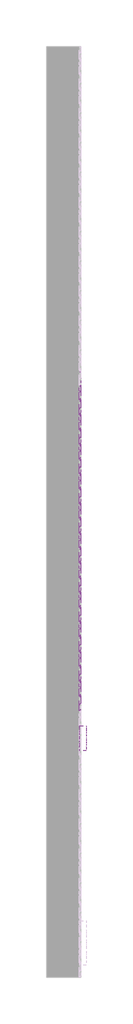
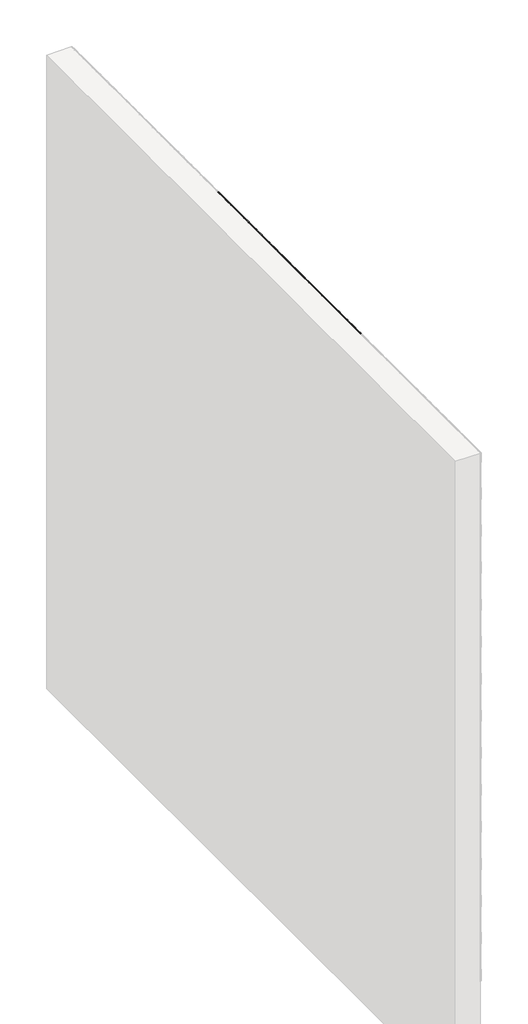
# One storey, part 112 of 121: 87 proxies.
"""IFC4 building model written with IfcOpenShell, lengths in millimetres."""

import ifcopenshell
import ifcopenshell.guid

model = None  # the IFC model being written
_history = None  # IfcOwnerHistory: only IFC2X3 demands one
_inside = {}  # id of a spatial element -> (the spatial element, [elements in it])
_under = {}  # id of a project, library or spatial element -> (it, [spatial elements below it])
_declared = {}  # id of a project -> (the project, [libraries it declares])
_typed = {}  # id of a type object -> (the type object, [elements of that type])
_made_of = {}  # id of a material, layer set ... -> (it, [elements and type objects made of it])


def new_model(schema):
    """Start an empty IFC model of exactly this schema.

    Asked for "IFC4X3", IfcOpenShell would pick the latest addendum, in which some entities
    have other attributes; the version numbers below select the first issue.
    IFC2X3 requires an IfcOwnerHistory on every rooted entity: one is made here for all.
    """
    global model, _history
    if schema == "IFC4X3":
        model = ifcopenshell.file(schema_version=(4, 3, 0, 0))
    else:
        model = ifcopenshell.file(schema=schema)
    _inside.clear()
    _under.clear()
    _declared.clear()
    _typed.clear()
    _made_of.clear()
    _history = None
    if model.schema == "IFC2X3":
        org = make("IfcOrganization", Name="unknown")
        user = make(
            "IfcPersonAndOrganization",
            ThePerson=make("IfcPerson", FamilyName="unknown"),
            TheOrganization=org,
        )
        app = make(
            "IfcApplication",
            ApplicationDeveloper=org,
            Version="unknown",
            ApplicationFullName="unknown",
            ApplicationIdentifier="unknown",
        )
        _history = make(
            "IfcOwnerHistory",
            OwningUser=user,
            OwningApplication=app,
            ChangeAction="ADDED",
            CreationDate=0,
        )
    return model


def make(cls, **values):
    """One entity of the class cls with the attributes given. An attribute that is None is left unset."""
    return model.create_entity(
        cls, **{name: value for name, value in values.items() if value is not None}
    )


def rooted(cls, **values):
    """An entity with a GlobalId (a new one), such as an element, a storey or a relation."""
    return make(cls, GlobalId=ifcopenshell.guid.new(), OwnerHistory=_history, **values)


def si_unit(unit_type, name, prefix=None):
    """IfcSIUnit, for example si_unit("LENGTHUNIT", "METRE", prefix="MILLI")."""
    return make("IfcSIUnit", UnitType=unit_type, Prefix=prefix, Name=name)


def assignment(units):
    """IfcUnitAssignment: the units of a project."""
    return None if units is None else make("IfcUnitAssignment", Units=units)


def point(xyz):
    """IfcCartesianPoint."""
    return None if xyz is None else make("IfcCartesianPoint", Coordinates=xyz)


def direction(xyz):
    """IfcDirection."""
    return None if xyz is None else make("IfcDirection", DirectionRatios=xyz)


def frame(location, z_axis=None, x_axis=None):
    """IfcAxis2Placement3D, a coordinate frame: its origin and axes. An axis left out is left unset."""
    return make(
        "IfcAxis2Placement3D",
        Location=point(location),
        Axis=direction(z_axis),
        RefDirection=direction(x_axis),
    )


def origin():
    """The frame at (0, 0, 0) with its axes left unset."""
    return frame((0.0, 0.0, 0.0))


def origin_with_axes():
    """The frame at (0, 0, 0) with the z axis (0, 0, 1) and the x axis (1, 0, 0) written out."""
    return frame((0.0, 0.0, 0.0), z_axis=(0.0, 0.0, 1.0), x_axis=(1.0, 0.0, 0.0))


def place(relative_to, where):
    """IfcLocalPlacement: puts the frame where relative to a parent placement (None: the world)."""
    return make(
        "IfcLocalPlacement", PlacementRelTo=relative_to, RelativePlacement=where
    )


def context(
    kind, dimensions, precision=None, world=None, true_north=None, identifier=None
):
    """IfcGeometricRepresentationContext, for example the 3D "Model" context."""
    return make(
        "IfcGeometricRepresentationContext",
        ContextIdentifier=identifier,
        ContextType=kind,
        CoordinateSpaceDimension=dimensions,
        Precision=precision,
        WorldCoordinateSystem=world,
        TrueNorth=true_north,
    )


def project(units=None, contexts=None):
    """IfcProject with its units and contexts."""
    return rooted(
        "IfcProject",
        Name="project",
        RepresentationContexts=contexts,
        UnitsInContext=assignment(units),
    )


def spatial(cls, under=None, at=None, **own):
    """A site, building, storey or space (cls), placed at a placement, below another one or the project."""
    s = rooted(cls, ObjectPlacement=at, **own)
    if under is not None:
        _under.setdefault(under.id(), (under, []))[1].append(s)
    return s


def polyline(points):
    """IfcPolyline through the points."""
    return make("IfcPolyline", Points=[point(p) for p in points])


def outline(outer, holes=None, kind="AREA"):
    """IfcArbitraryClosedProfileDef: a profile drawn as a closed curve; with holes, ...WithVoids."""
    if holes is None:
        return make("IfcArbitraryClosedProfileDef", ProfileType=kind, OuterCurve=outer)
    return make(
        "IfcArbitraryProfileDefWithVoids",
        ProfileType=kind,
        OuterCurve=outer,
        InnerCurves=holes,
    )


def extrude(swept, where, along, depth):
    """IfcExtrudedAreaSolid: the profile swept, set in the frame where, extruded along a direction by depth."""
    return make(
        "IfcExtrudedAreaSolid",
        SweptArea=swept,
        Position=where,
        ExtrudedDirection=direction(along),
        Depth=depth,
    )


def shape(context_of_items, identifier, shape_type, items):
    """IfcShapeRepresentation: the items that make up one representation, for example the "Body"."""
    return make(
        "IfcShapeRepresentation",
        ContextOfItems=context_of_items,
        RepresentationIdentifier=identifier,
        RepresentationType=shape_type,
        Items=items,
    )


def source(mapping_origin, context_of_items, identifier, shape_type, items):
    """IfcRepresentationMap: a shape defined once, which mapped items show again and again."""
    return make(
        "IfcRepresentationMap",
        MappingOrigin=mapping_origin,
        MappedRepresentation=shape(context_of_items, identifier, shape_type, items),
    )


def transform(
    local_origin,
    x_axis=None,
    y_axis=None,
    z_axis=None,
    scale=None,
    scale2=None,
    scale3=None,
    uniform=True,
):
    """IfcCartesianTransformationOperator3D, or its non-uniform kind. x_axis, y_axis, z_axis: its Axis1, 2, 3."""
    if uniform:
        return make(
            "IfcCartesianTransformationOperator3D",
            Axis1=direction(x_axis),
            Axis2=direction(y_axis),
            LocalOrigin=point(local_origin),
            Scale=scale,
            Axis3=direction(z_axis),
        )
    return make(
        "IfcCartesianTransformationOperator3DnonUniform",
        Axis1=direction(x_axis),
        Axis2=direction(y_axis),
        LocalOrigin=point(local_origin),
        Scale=scale,
        Axis3=direction(z_axis),
        Scale2=scale2,
        Scale3=scale3,
    )


def mapped(mapping_source, mapping_target):
    """IfcMappedItem: shows the shape of a source again, moved by a transform."""
    return make(
        "IfcMappedItem", MappingSource=mapping_source, MappingTarget=mapping_target
    )


def made_of(thing, what):
    """Note that an element or type object is made of a material, layer set ...; save() writes the relation."""
    if what is not None:
        _made_of.setdefault(what.id(), (what, []))[1].append(thing)
    return thing


def element(
    cls,
    number,
    at=None,
    inside=None,
    cuts=None,
    type_object=None,
    material=None,
    context=None,
    identifier="Body",
    shape_type=None,
    held_by="IfcProductDefinitionShape",
    body=None,
    shapes=None,
    **own,
):
    """One element of the class cls, such as IfcWall. Its Tag is "e" and its number.

    at: its placement. inside: the storey or other place that contains it. cuts: it is an
    opening in that element (IfcRelVoidsElement). A single representation is given by context,
    identifier, shape_type and body (its items); several are given by shapes. held_by: the class
    of the entity that holds the representations. save() writes the other relations.
    """
    e = rooted(cls, Tag="e%d" % number, ObjectPlacement=at, **own)
    if body is not None:
        shapes = [shape(context, identifier, shape_type, body)]
    if shapes is not None:
        e.Representation = make(held_by, Representations=shapes)
    if inside is not None:
        _inside.setdefault(inside.id(), (inside, []))[1].append(e)
    if cuts is not None:
        rooted(
            "IfcRelVoidsElement", RelatingBuildingElement=cuts, RelatedOpeningElement=e
        )
    if type_object is not None:
        _typed.setdefault(type_object.id(), (type_object, []))[1].append(e)
    return made_of(e, material)


def aggregate(whole, parts):
    """IfcRelAggregates: a whole, such as a stair, and the parts it consists of."""
    return rooted("IfcRelAggregates", RelatingObject=whole, RelatedObjects=parts)


def save(model, path):
    """Write the relations noted so far, then the file.

    IfcRelAggregates (storeys below a building ...), IfcRelContainedInSpatialStructure (elements
    in a storey), IfcRelDefinesByType, IfcRelAssociatesMaterial and IfcRelDeclares: one each for
    every whole, place, type object, material and project.
    """
    for whole, parts in _under.values():
        aggregate(whole, parts)
    for where, things in _inside.values():
        rooted(
            "IfcRelContainedInSpatialStructure",
            RelatedElements=things,
            RelatingStructure=where,
        )
    for kind, things in _typed.values():
        rooted("IfcRelDefinesByType", RelatedObjects=things, RelatingType=kind)
    for what, things in _made_of.values():
        rooted("IfcRelAssociatesMaterial", RelatedObjects=things, RelatingMaterial=what)
    for by, libraries in _declared.values():
        rooted("IfcRelDeclares", RelatingContext=by, RelatedDefinitions=libraries)
    model.write(path)


def generic_models_b2b2c5c1(model_context):
    return source(origin(), model_context, "Body", "SweptSolid", [
        extrude(outline(polyline([(22.7119765, 13.1167077), (22.7119765, -39.4221668), (-22.7076581, -13.1991285), (-22.7076581, 39.339746), (22.7119765, 13.1167077)])), origin_with_axes(), (0.0, 0.0, 1.0), 2.0),
        extrude(outline(polyline([(-20.7076581, 35.8756443), (20.7119765, 11.9620071), (20.7119765, -35.9580652), (-20.7076581, -12.044428), (-20.7076581, 35.8756443)])), frame((0.0, 0.0, 2.0), z_axis=(0.0, 0.0, 1.0), x_axis=(1.0, 0.0, 0.0)), (0.0, 0.0, 1.0), 2.5),
    ])


def generic_models_9bf73f6f(model_context):
    return source(origin(), model_context, "Body", "SweptSolid", [
        extrude(outline(polyline([(0.0, 26.3094011), (45.5692194, 0.0), (0.0, -26.3094011), (-45.5692194, 0.0), (0.0, 26.3094011)])), origin_with_axes(), (0.0, 0.0, 1.0), 2.0),
        extrude(outline(polyline([(0.0, 24.0), (41.5692194, 0.0), (0.0, -24.0), (-41.5692194, 0.0), (0.0, 24.0)])), frame((0.0, 0.0, 2.0), z_axis=(0.0, 0.0, 1.0), x_axis=(1.0, 0.0, 0.0)), (0.0, 0.0, 1.0), 2.5),
    ])


def generic_models_5d175859(model_context):
    return source(origin(), model_context, "Body", "SweptSolid", [
        extrude(outline(polyline([(22.7119765, -13.1167077), (-22.7076581, -39.339746), (-22.7076581, 13.1991285), (22.7119765, 39.4221668), (22.7119765, -13.1167077)])), origin_with_axes(), (0.0, 0.0, 1.0), 2.0),
        extrude(outline(polyline([(-20.7076581, -35.8756443), (-20.7076581, 12.044428), (20.7119765, 35.9580652), (20.7119765, -11.9620071), (-20.7076581, -35.8756443)])), frame((0.0, 0.0, 2.0), z_axis=(0.0, 0.0, 1.0), x_axis=(1.0, 0.0, 0.0)), (0.0, 0.0, 1.0), 2.5),
    ])


def generic_models_65d4feed(model_context):
    return source(origin(), model_context, "Body", "SweptSolid", [
        extrude(outline(polyline([(22.7119765, -23.160254), (22.7119765, -39.4221668), (-5.4544827, -23.160254), (22.7119765, -23.160254)])), origin_with_axes(), (0.0, 0.0, 1.0), 2.0),
        extrude(outline(polyline([(20.7119765, -23.160254), (20.7119765, -35.9580652), (-1.4544827, -23.160254), (20.7119765, -23.160254)])), frame((0.0, 0.0, 2.0), z_axis=(0.0, 0.0, 1.0), x_axis=(1.0, 0.0, 0.0)), (0.0, 0.0, 1.0), 2.5),
    ])


def generic_models_3c364290(model_context):
    return source(origin(), model_context, "Body", "SweptSolid", [
        extrude(outline(polyline([(22.7119765, 23.160254), (-5.4544827, 23.160254), (22.7119765, 39.4221668), (22.7119765, 23.160254)])), origin_with_axes(), (0.0, 0.0, 1.0), 2.0),
        extrude(outline(polyline([(20.7119765, 23.160254), (-1.4544827, 23.160254), (20.7119765, 35.9580652), (20.7119765, 23.160254)])), frame((0.0, 0.0, 2.0), z_axis=(0.0, 0.0, 1.0), x_axis=(1.0, 0.0, 0.0)), (0.0, 0.0, 1.0), 2.5),
    ])


def generic_models_b652511d(model_context):
    return source(origin(), model_context, "Body", "SweptSolid", [
        extrude(outline(polyline([(45.5692194, 0.0), (0.0, -26.3094011), (-45.5692194, 0.0), (-17.3205081, 16.3094011), (17.3205081, 16.3094011), (45.5692194, 0.0)])), origin_with_axes(), (0.0, 0.0, 1.0), 2.0),
        extrude(outline(polyline([(41.5692194, 0.0), (0.0, -24.0), (-41.5692194, 0.0), (-13.3205081, 16.3094011), (13.3205081, 16.3094011), (41.5692194, 0.0)])), frame((0.0, 0.0, 2.0), z_axis=(0.0, 0.0, 1.0), x_axis=(1.0, 0.0, 0.0)), (0.0, 0.0, 1.0), 2.5),
    ])


model = new_model("IFC4")

# Units and contexts
model_context = context("Model", 3, world=origin())
ifc_project = project(units=[si_unit("LENGTHUNIT", "METRE", prefix="MILLI")], contexts=[model_context])

# Site, building, storey
site = spatial("IfcSite", under=ifc_project)
building = spatial("IfcBuilding", under=site)
storey = spatial("IfcBuildingStorey", under=building, Name="PORTOBELLO - SHOWROOM", Elevation=0.0)

# Proxies
placement = place(None, origin())
generic_models_shape = generic_models_b2b2c5c1(model_context)
element("IfcBuildingElementProxy", 1, Name="PBSHOP - CUBICA WHITE 4,8X8,3 : CUBICA WHITE - POSIÇÃO 01", ObjectType="PBSHOP - CUBICA WHITE 4,8X8,3 : CUBICA WHITE - POSIÇÃO 01", at=placement, inside=storey, context=model_context, shape_type="MappedRepresentation", body=[
    mapped(generic_models_shape, transform((150369.5341846, 20649.9760535, 2565.3305948), x_axis=(0.0, 1.0, 0.0), y_axis=(0.0, 0.0, 1.0), z_axis=(1.0, 0.0, 0.0))),
])
element("IfcBuildingElementProxy", 2, Name="PBSHOP - CUBICA WHITE 4,8X8,3 : CUBICA WHITE - POSIÇÃO 01", ObjectType="PBSHOP - CUBICA WHITE 4,8X8,3 : CUBICA WHITE - POSIÇÃO 01", at=placement, inside=storey, context=model_context, shape_type="MappedRepresentation", body=[
    mapped(generic_models_shape, transform((150369.5341846, 20740.8153227, 2565.3305948), x_axis=(0.0, 1.0, 0.0), y_axis=(0.0, 0.0, 1.0), z_axis=(1.0, 0.0, 0.0))),
])
element("IfcBuildingElementProxy", 3, Name="PBSHOP - CUBICA WHITE 4,8X8,3 : CUBICA WHITE - POSIÇÃO 01", ObjectType="PBSHOP - CUBICA WHITE 4,8X8,3 : CUBICA WHITE - POSIÇÃO 01", at=placement, inside=storey, context=model_context, shape_type="MappedRepresentation", body=[
    mapped(generic_models_shape, transform((150369.5341846, 20831.654592, 2565.3305948), x_axis=(0.0, 1.0, 0.0), y_axis=(0.0, 0.0, 1.0), z_axis=(1.0, 0.0, 0.0))),
])
element("IfcBuildingElementProxy", 4, Name="PBSHOP - CUBICA WHITE 4,8X8,3 : CUBICA WHITE - POSIÇÃO 01", ObjectType="PBSHOP - CUBICA WHITE 4,8X8,3 : CUBICA WHITE - POSIÇÃO 01", at=placement, inside=storey, context=model_context, shape_type="MappedRepresentation", body=[
    mapped(generic_models_shape, transform((150369.5341846, 20922.4938612, 2565.3305948), x_axis=(0.0, 1.0, 0.0), y_axis=(0.0, 0.0, 1.0), z_axis=(1.0, 0.0, 0.0))),
])
element("IfcBuildingElementProxy", 5, Name="PBSHOP - CUBICA WHITE 4,8X8,3 : CUBICA WHITE - POSIÇÃO 01", ObjectType="PBSHOP - CUBICA WHITE 4,8X8,3 : CUBICA WHITE - POSIÇÃO 01", at=placement, inside=storey, context=model_context, shape_type="MappedRepresentation", body=[
    mapped(generic_models_shape, transform((150369.5341846, 20059.5208034, 2644.2652332), x_axis=(0.0, 1.0, 0.0), y_axis=(0.0, 0.0, 1.0), z_axis=(1.0, 0.0, 0.0))),
])
element("IfcBuildingElementProxy", 6, Name="PBSHOP - CUBICA WHITE 4,8X8,3 : CUBICA WHITE - POSIÇÃO 01", ObjectType="PBSHOP - CUBICA WHITE 4,8X8,3 : CUBICA WHITE - POSIÇÃO 01", at=placement, inside=storey, context=model_context, shape_type="MappedRepresentation", body=[
    mapped(generic_models_shape, transform((150369.5341846, 20150.3600726, 2644.2652332), x_axis=(0.0, 1.0, 0.0), y_axis=(0.0, 0.0, 1.0), z_axis=(1.0, 0.0, 0.0))),
])
element("IfcBuildingElementProxy", 7, Name="PBSHOP - CUBICA WHITE 4,8X8,3 : CUBICA WHITE - POSIÇÃO 01", ObjectType="PBSHOP - CUBICA WHITE 4,8X8,3 : CUBICA WHITE - POSIÇÃO 01", at=placement, inside=storey, context=model_context, shape_type="MappedRepresentation", body=[
    mapped(generic_models_shape, transform((150369.5341846, 20241.1993419, 2644.2652332), x_axis=(0.0, 1.0, 0.0), y_axis=(0.0, 0.0, 1.0), z_axis=(1.0, 0.0, 0.0))),
])
element("IfcBuildingElementProxy", 8, Name="PBSHOP - CUBICA WHITE 4,8X8,3 : CUBICA WHITE - POSIÇÃO 01", ObjectType="PBSHOP - CUBICA WHITE 4,8X8,3 : CUBICA WHITE - POSIÇÃO 01", at=placement, inside=storey, context=model_context, shape_type="MappedRepresentation", body=[
    mapped(generic_models_shape, transform((150369.5341846, 20332.0386111, 2644.2652332), x_axis=(0.0, 1.0, 0.0), y_axis=(0.0, 0.0, 1.0), z_axis=(1.0, 0.0, 0.0))),
])
element("IfcBuildingElementProxy", 9, Name="PBSHOP - CUBICA WHITE 4,8X8,3 : CUBICA WHITE - POSIÇÃO 01", ObjectType="PBSHOP - CUBICA WHITE 4,8X8,3 : CUBICA WHITE - POSIÇÃO 01", at=placement, inside=storey, context=model_context, shape_type="MappedRepresentation", body=[
    mapped(generic_models_shape, transform((150369.5341846, 20422.8778804, 2644.2652332), x_axis=(0.0, 1.0, 0.0), y_axis=(0.0, 0.0, 1.0), z_axis=(1.0, 0.0, 0.0))),
])
element("IfcBuildingElementProxy", 10, Name="PBSHOP - CUBICA WHITE 4,8X8,3 : CUBICA WHITE - POSIÇÃO 01", ObjectType="PBSHOP - CUBICA WHITE 4,8X8,3 : CUBICA WHITE - POSIÇÃO 01", at=placement, inside=storey, context=model_context, shape_type="MappedRepresentation", body=[
    mapped(generic_models_shape, transform((150369.5341846, 20513.7171496, 2644.2652332), x_axis=(0.0, 1.0, 0.0), y_axis=(0.0, 0.0, 1.0), z_axis=(1.0, 0.0, 0.0))),
])
element("IfcBuildingElementProxy", 11, Name="PBSHOP - CUBICA WHITE 4,8X8,3 : CUBICA WHITE - POSIÇÃO 01", ObjectType="PBSHOP - CUBICA WHITE 4,8X8,3 : CUBICA WHITE - POSIÇÃO 01", at=placement, inside=storey, context=model_context, shape_type="MappedRepresentation", body=[
    mapped(generic_models_shape, transform((150369.5341846, 20604.5564189, 2644.2652332), x_axis=(0.0, 1.0, 0.0), y_axis=(0.0, 0.0, 1.0), z_axis=(1.0, 0.0, 0.0))),
])
element("IfcBuildingElementProxy", 12, Name="PBSHOP - CUBICA WHITE 4,8X8,3 : CUBICA WHITE - POSIÇÃO 01", ObjectType="PBSHOP - CUBICA WHITE 4,8X8,3 : CUBICA WHITE - POSIÇÃO 01", at=placement, inside=storey, context=model_context, shape_type="MappedRepresentation", body=[
    mapped(generic_models_shape, transform((150369.5341846, 20695.3956881, 2644.2652332), x_axis=(0.0, 1.0, 0.0), y_axis=(0.0, 0.0, 1.0), z_axis=(1.0, 0.0, 0.0))),
])
element("IfcBuildingElementProxy", 13, Name="PBSHOP - CUBICA WHITE 4,8X8,3 : CUBICA WHITE - POSIÇÃO 01", ObjectType="PBSHOP - CUBICA WHITE 4,8X8,3 : CUBICA WHITE - POSIÇÃO 01", at=placement, inside=storey, context=model_context, shape_type="MappedRepresentation", body=[
    mapped(generic_models_shape, transform((150369.5341846, 20786.2349573, 2644.2652332), x_axis=(0.0, 1.0, 0.0), y_axis=(0.0, 0.0, 1.0), z_axis=(1.0, 0.0, 0.0))),
])
element("IfcBuildingElementProxy", 14, Name="PBSHOP - CUBICA WHITE 4,8X8,3 : CUBICA WHITE - POSIÇÃO 01", ObjectType="PBSHOP - CUBICA WHITE 4,8X8,3 : CUBICA WHITE - POSIÇÃO 01", at=placement, inside=storey, context=model_context, shape_type="MappedRepresentation", body=[
    mapped(generic_models_shape, transform((150369.5341846, 20877.0742266, 2644.2652332), x_axis=(0.0, 1.0, 0.0), y_axis=(0.0, 0.0, 1.0), z_axis=(1.0, 0.0, 0.0))),
])
element("IfcBuildingElementProxy", 15, Name="PBSHOP - CUBICA WHITE 4,8X8,3 : CUBICA WHITE - POSIÇÃO 01", ObjectType="PBSHOP - CUBICA WHITE 4,8X8,3 : CUBICA WHITE - POSIÇÃO 01", at=placement, inside=storey, context=model_context, shape_type="MappedRepresentation", body=[
    mapped(generic_models_shape, transform((150369.5341846, 20967.9134958, 2644.2652332), x_axis=(0.0, 1.0, 0.0), y_axis=(0.0, 0.0, 1.0), z_axis=(1.0, 0.0, 0.0))),
])
generic_models_2_shape = generic_models_9bf73f6f(model_context)
element("IfcBuildingElementProxy", 16, Name="PBSHOP - CUBICA WHITE 4,8X8,3 : CUBICA WHITE - POSIÇÃO 03", ObjectType="PBSHOP - CUBICA WHITE 4,8X8,3 : CUBICA WHITE - POSIÇÃO 03", at=placement, inside=storey, context=model_context, shape_type="MappedRepresentation", body=[
    mapped(generic_models_2_shape, transform((150369.5341846, 20082.2327799, 2525.8220652), x_axis=(0.0, 1.0, 0.0), y_axis=(0.0, 0.0, 1.0), z_axis=(1.0, 0.0, 0.0))),
])
element("IfcBuildingElementProxy", 17, Name="PBSHOP - CUBICA WHITE 4,8X8,3 : CUBICA WHITE - POSIÇÃO 03", ObjectType="PBSHOP - CUBICA WHITE 4,8X8,3 : CUBICA WHITE - POSIÇÃO 03", at=placement, inside=storey, context=model_context, shape_type="MappedRepresentation", body=[
    mapped(generic_models_2_shape, transform((150369.5341846, 20173.0720491, 2525.8220652), x_axis=(0.0, 1.0, 0.0), y_axis=(0.0, 0.0, 1.0), z_axis=(1.0, 0.0, 0.0))),
])
element("IfcBuildingElementProxy", 18, Name="PBSHOP - CUBICA WHITE 4,8X8,3 : CUBICA WHITE - POSIÇÃO 03", ObjectType="PBSHOP - CUBICA WHITE 4,8X8,3 : CUBICA WHITE - POSIÇÃO 03", at=placement, inside=storey, context=model_context, shape_type="MappedRepresentation", body=[
    mapped(generic_models_2_shape, transform((150369.5341846, 20263.9113184, 2525.8220652), x_axis=(0.0, 1.0, 0.0), y_axis=(0.0, 0.0, 1.0), z_axis=(1.0, 0.0, 0.0))),
])
element("IfcBuildingElementProxy", 19, Name="PBSHOP - CUBICA WHITE 4,8X8,3 : CUBICA WHITE - POSIÇÃO 03", ObjectType="PBSHOP - CUBICA WHITE 4,8X8,3 : CUBICA WHITE - POSIÇÃO 03", at=placement, inside=storey, context=model_context, shape_type="MappedRepresentation", body=[
    mapped(generic_models_2_shape, transform((150369.5341846, 20354.7505876, 2525.8220652), x_axis=(0.0, 1.0, 0.0), y_axis=(0.0, 0.0, 1.0), z_axis=(1.0, 0.0, 0.0))),
])
element("IfcBuildingElementProxy", 20, Name="PBSHOP - CUBICA WHITE 4,8X8,3 : CUBICA WHITE - POSIÇÃO 03", ObjectType="PBSHOP - CUBICA WHITE 4,8X8,3 : CUBICA WHITE - POSIÇÃO 03", at=placement, inside=storey, context=model_context, shape_type="MappedRepresentation", body=[
    mapped(generic_models_2_shape, transform((150369.5341846, 20445.5898568, 2525.8220652), x_axis=(0.0, 1.0, 0.0), y_axis=(0.0, 0.0, 1.0), z_axis=(1.0, 0.0, 0.0))),
])
element("IfcBuildingElementProxy", 21, Name="PBSHOP - CUBICA WHITE 4,8X8,3 : CUBICA WHITE - POSIÇÃO 03", ObjectType="PBSHOP - CUBICA WHITE 4,8X8,3 : CUBICA WHITE - POSIÇÃO 03", at=placement, inside=storey, context=model_context, shape_type="MappedRepresentation", body=[
    mapped(generic_models_2_shape, transform((150369.5341846, 20536.4291261, 2525.8220652), x_axis=(0.0, 1.0, 0.0), y_axis=(0.0, 0.0, 1.0), z_axis=(1.0, 0.0, 0.0))),
])
element("IfcBuildingElementProxy", 22, Name="PBSHOP - CUBICA WHITE 4,8X8,3 : CUBICA WHITE - POSIÇÃO 03", ObjectType="PBSHOP - CUBICA WHITE 4,8X8,3 : CUBICA WHITE - POSIÇÃO 03", at=placement, inside=storey, context=model_context, shape_type="MappedRepresentation", body=[
    mapped(generic_models_2_shape, transform((150369.5341846, 20627.2683953, 2525.8220652), x_axis=(0.0, 1.0, 0.0), y_axis=(0.0, 0.0, 1.0), z_axis=(1.0, 0.0, 0.0))),
])
element("IfcBuildingElementProxy", 23, Name="PBSHOP - CUBICA WHITE 4,8X8,3 : CUBICA WHITE - POSIÇÃO 03", ObjectType="PBSHOP - CUBICA WHITE 4,8X8,3 : CUBICA WHITE - POSIÇÃO 03", at=placement, inside=storey, context=model_context, shape_type="MappedRepresentation", body=[
    mapped(generic_models_2_shape, transform((150369.5341846, 20718.1076646, 2525.8220652), x_axis=(0.0, 1.0, 0.0), y_axis=(0.0, 0.0, 1.0), z_axis=(1.0, 0.0, 0.0))),
])
element("IfcBuildingElementProxy", 24, Name="PBSHOP - CUBICA WHITE 4,8X8,3 : CUBICA WHITE - POSIÇÃO 03", ObjectType="PBSHOP - CUBICA WHITE 4,8X8,3 : CUBICA WHITE - POSIÇÃO 03", at=placement, inside=storey, context=model_context, shape_type="MappedRepresentation", body=[
    mapped(generic_models_2_shape, transform((150369.5341846, 20808.9469338, 2525.8220652), x_axis=(0.0, 1.0, 0.0), y_axis=(0.0, 0.0, 1.0), z_axis=(1.0, 0.0, 0.0))),
])
element("IfcBuildingElementProxy", 25, Name="PBSHOP - CUBICA WHITE 4,8X8,3 : CUBICA WHITE - POSIÇÃO 03", ObjectType="PBSHOP - CUBICA WHITE 4,8X8,3 : CUBICA WHITE - POSIÇÃO 03", at=placement, inside=storey, context=model_context, shape_type="MappedRepresentation", body=[
    mapped(generic_models_2_shape, transform((150369.5341846, 20899.7862031, 2525.8220652), x_axis=(0.0, 1.0, 0.0), y_axis=(0.0, 0.0, 1.0), z_axis=(1.0, 0.0, 0.0))),
])
element("IfcBuildingElementProxy", 26, Name="PBSHOP - CUBICA WHITE 4,8X8,3 : CUBICA WHITE - POSIÇÃO 03", ObjectType="PBSHOP - CUBICA WHITE 4,8X8,3 : CUBICA WHITE - POSIÇÃO 03", at=placement, inside=storey, context=model_context, shape_type="MappedRepresentation", body=[
    mapped(generic_models_2_shape, transform((150369.5341846, 20990.6254723, 2525.8220652), x_axis=(0.0, 1.0, 0.0), y_axis=(0.0, 0.0, 1.0), z_axis=(1.0, 0.0, 0.0))),
])
element("IfcBuildingElementProxy", 27, Name="PBSHOP - CUBICA WHITE 4,8X8,3 : CUBICA WHITE - POSIÇÃO 03", ObjectType="PBSHOP - CUBICA WHITE 4,8X8,3 : CUBICA WHITE - POSIÇÃO 03", at=placement, inside=storey, context=model_context, shape_type="MappedRepresentation", body=[
    mapped(generic_models_2_shape, transform((150369.5341846, 20036.8131452, 2604.7567035), x_axis=(0.0, 1.0, 0.0), y_axis=(0.0, 0.0, 1.0), z_axis=(1.0, 0.0, 0.0))),
])
element("IfcBuildingElementProxy", 28, Name="PBSHOP - CUBICA WHITE 4,8X8,3 : CUBICA WHITE - POSIÇÃO 03", ObjectType="PBSHOP - CUBICA WHITE 4,8X8,3 : CUBICA WHITE - POSIÇÃO 03", at=placement, inside=storey, context=model_context, shape_type="MappedRepresentation", body=[
    mapped(generic_models_2_shape, transform((150369.5341846, 20127.6524145, 2604.7567035), x_axis=(0.0, 1.0, 0.0), y_axis=(0.0, 0.0, 1.0), z_axis=(1.0, 0.0, 0.0))),
])
element("IfcBuildingElementProxy", 29, Name="PBSHOP - CUBICA WHITE 4,8X8,3 : CUBICA WHITE - POSIÇÃO 03", ObjectType="PBSHOP - CUBICA WHITE 4,8X8,3 : CUBICA WHITE - POSIÇÃO 03", at=placement, inside=storey, context=model_context, shape_type="MappedRepresentation", body=[
    mapped(generic_models_2_shape, transform((150369.5341846, 20218.4916837, 2604.7567035), x_axis=(0.0, 1.0, 0.0), y_axis=(0.0, 0.0, 1.0), z_axis=(1.0, 0.0, 0.0))),
])
element("IfcBuildingElementProxy", 30, Name="PBSHOP - CUBICA WHITE 4,8X8,3 : CUBICA WHITE - POSIÇÃO 03", ObjectType="PBSHOP - CUBICA WHITE 4,8X8,3 : CUBICA WHITE - POSIÇÃO 03", at=placement, inside=storey, context=model_context, shape_type="MappedRepresentation", body=[
    mapped(generic_models_2_shape, transform((150369.5341846, 20309.330953, 2604.7567035), x_axis=(0.0, 1.0, 0.0), y_axis=(0.0, 0.0, 1.0), z_axis=(1.0, 0.0, 0.0))),
])
element("IfcBuildingElementProxy", 31, Name="PBSHOP - CUBICA WHITE 4,8X8,3 : CUBICA WHITE - POSIÇÃO 03", ObjectType="PBSHOP - CUBICA WHITE 4,8X8,3 : CUBICA WHITE - POSIÇÃO 03", at=placement, inside=storey, context=model_context, shape_type="MappedRepresentation", body=[
    mapped(generic_models_2_shape, transform((150369.5341846, 20400.1702222, 2604.7567035), x_axis=(0.0, 1.0, 0.0), y_axis=(0.0, 0.0, 1.0), z_axis=(1.0, 0.0, 0.0))),
])
element("IfcBuildingElementProxy", 32, Name="PBSHOP - CUBICA WHITE 4,8X8,3 : CUBICA WHITE - POSIÇÃO 03", ObjectType="PBSHOP - CUBICA WHITE 4,8X8,3 : CUBICA WHITE - POSIÇÃO 03", at=placement, inside=storey, context=model_context, shape_type="MappedRepresentation", body=[
    mapped(generic_models_2_shape, transform((150369.5341846, 20491.0094915, 2604.7567035), x_axis=(0.0, 1.0, 0.0), y_axis=(0.0, 0.0, 1.0), z_axis=(1.0, 0.0, 0.0))),
])
element("IfcBuildingElementProxy", 33, Name="PBSHOP - CUBICA WHITE 4,8X8,3 : CUBICA WHITE - POSIÇÃO 03", ObjectType="PBSHOP - CUBICA WHITE 4,8X8,3 : CUBICA WHITE - POSIÇÃO 03", at=placement, inside=storey, context=model_context, shape_type="MappedRepresentation", body=[
    mapped(generic_models_2_shape, transform((150369.5341846, 20581.8487607, 2604.7567035), x_axis=(0.0, 1.0, 0.0), y_axis=(0.0, 0.0, 1.0), z_axis=(1.0, 0.0, 0.0))),
])
element("IfcBuildingElementProxy", 34, Name="PBSHOP - CUBICA WHITE 4,8X8,3 : CUBICA WHITE - POSIÇÃO 03", ObjectType="PBSHOP - CUBICA WHITE 4,8X8,3 : CUBICA WHITE - POSIÇÃO 03", at=placement, inside=storey, context=model_context, shape_type="MappedRepresentation", body=[
    mapped(generic_models_2_shape, transform((150369.5341846, 20672.6880299, 2604.7567035), x_axis=(0.0, 1.0, 0.0), y_axis=(0.0, 0.0, 1.0), z_axis=(1.0, 0.0, 0.0))),
])
element("IfcBuildingElementProxy", 35, Name="PBSHOP - CUBICA WHITE 4,8X8,3 : CUBICA WHITE - POSIÇÃO 03", ObjectType="PBSHOP - CUBICA WHITE 4,8X8,3 : CUBICA WHITE - POSIÇÃO 03", at=placement, inside=storey, context=model_context, shape_type="MappedRepresentation", body=[
    mapped(generic_models_2_shape, transform((150369.5341846, 20763.5272992, 2604.7567035), x_axis=(0.0, 1.0, 0.0), y_axis=(0.0, 0.0, 1.0), z_axis=(1.0, 0.0, 0.0))),
])
element("IfcBuildingElementProxy", 36, Name="PBSHOP - CUBICA WHITE 4,8X8,3 : CUBICA WHITE - POSIÇÃO 03", ObjectType="PBSHOP - CUBICA WHITE 4,8X8,3 : CUBICA WHITE - POSIÇÃO 03", at=placement, inside=storey, context=model_context, shape_type="MappedRepresentation", body=[
    mapped(generic_models_2_shape, transform((150369.5341846, 20854.3665684, 2604.7567035), x_axis=(0.0, 1.0, 0.0), y_axis=(0.0, 0.0, 1.0), z_axis=(1.0, 0.0, 0.0))),
])
element("IfcBuildingElementProxy", 37, Name="PBSHOP - CUBICA WHITE 4,8X8,3 : CUBICA WHITE - POSIÇÃO 03", ObjectType="PBSHOP - CUBICA WHITE 4,8X8,3 : CUBICA WHITE - POSIÇÃO 03", at=placement, inside=storey, context=model_context, shape_type="MappedRepresentation", body=[
    mapped(generic_models_2_shape, transform((150369.5341846, 20945.2058377, 2604.7567035), x_axis=(0.0, 1.0, 0.0), y_axis=(0.0, 0.0, 1.0), z_axis=(1.0, 0.0, 0.0))),
])
generic_models_3_shape = generic_models_5d175859(model_context)
element("IfcBuildingElementProxy", 38, Name="PBSHOP - CUBICA WHITE 4,8X8,3 : CUBICA WHITE - POSIÇÃO 01", ObjectType="PBSHOP - CUBICA WHITE 4,8X8,3 : CUBICA WHITE - POSIÇÃO 01", at=placement, inside=storey, context=model_context, shape_type="MappedRepresentation", body=[
    mapped(generic_models_3_shape, transform((150369.5341846, 20604.5607372, 2565.3305948), x_axis=(0.0, -1.0, 0.0), y_axis=(0.0, 0.0, -1.0), z_axis=(1.0, 0.0, 0.0))),
])
element("IfcBuildingElementProxy", 39, Name="PBSHOP - CUBICA WHITE 4,8X8,3 : CUBICA WHITE - POSIÇÃO 01", ObjectType="PBSHOP - CUBICA WHITE 4,8X8,3 : CUBICA WHITE - POSIÇÃO 01", at=placement, inside=storey, context=model_context, shape_type="MappedRepresentation", body=[
    mapped(generic_models_3_shape, transform((150369.5341846, 20695.4000064, 2565.3305948), x_axis=(0.0, -1.0, 0.0), y_axis=(0.0, 0.0, -1.0), z_axis=(1.0, 0.0, 0.0))),
])
element("IfcBuildingElementProxy", 40, Name="PBSHOP - CUBICA WHITE 4,8X8,3 : CUBICA WHITE - POSIÇÃO 01", ObjectType="PBSHOP - CUBICA WHITE 4,8X8,3 : CUBICA WHITE - POSIÇÃO 01", at=placement, inside=storey, context=model_context, shape_type="MappedRepresentation", body=[
    mapped(generic_models_3_shape, transform((150369.5341846, 20786.2392757, 2565.3305948), x_axis=(0.0, -1.0, 0.0), y_axis=(0.0, 0.0, -1.0), z_axis=(1.0, 0.0, 0.0))),
])
element("IfcBuildingElementProxy", 41, Name="PBSHOP - CUBICA WHITE 4,8X8,3 : CUBICA WHITE - POSIÇÃO 01", ObjectType="PBSHOP - CUBICA WHITE 4,8X8,3 : CUBICA WHITE - POSIÇÃO 01", at=placement, inside=storey, context=model_context, shape_type="MappedRepresentation", body=[
    mapped(generic_models_3_shape, transform((150369.5341846, 20877.0785449, 2565.3305948), x_axis=(0.0, -1.0, 0.0), y_axis=(0.0, 0.0, -1.0), z_axis=(1.0, 0.0, 0.0))),
])
element("IfcBuildingElementProxy", 42, Name="PBSHOP - CUBICA WHITE 4,8X8,3 : CUBICA WHITE - POSIÇÃO 01", ObjectType="PBSHOP - CUBICA WHITE 4,8X8,3 : CUBICA WHITE - POSIÇÃO 01", at=placement, inside=storey, context=model_context, shape_type="MappedRepresentation", body=[
    mapped(generic_models_3_shape, transform((150369.5341846, 20967.9178142, 2565.3305948), x_axis=(0.0, -1.0, 0.0), y_axis=(0.0, 0.0, -1.0), z_axis=(1.0, 0.0, 0.0))),
])
element("IfcBuildingElementProxy", 43, Name="PBSHOP - CUBICA WHITE 4,8X8,3 : CUBICA WHITE - POSIÇÃO 01", ObjectType="PBSHOP - CUBICA WHITE 4,8X8,3 : CUBICA WHITE - POSIÇÃO 01", at=placement, inside=storey, context=model_context, shape_type="MappedRepresentation", body=[
    mapped(generic_models_3_shape, transform((150369.5341846, 20014.1054871, 2644.2652332), x_axis=(0.0, -1.0, 0.0), y_axis=(0.0, 0.0, -1.0), z_axis=(1.0, 0.0, 0.0))),
])
element("IfcBuildingElementProxy", 44, Name="PBSHOP - CUBICA WHITE 4,8X8,3 : CUBICA WHITE - POSIÇÃO 01", ObjectType="PBSHOP - CUBICA WHITE 4,8X8,3 : CUBICA WHITE - POSIÇÃO 01", at=placement, inside=storey, context=model_context, shape_type="MappedRepresentation", body=[
    mapped(generic_models_3_shape, transform((150369.5341846, 20104.9447563, 2644.2652332), x_axis=(0.0, -1.0, 0.0), y_axis=(0.0, 0.0, -1.0), z_axis=(1.0, 0.0, 0.0))),
])
element("IfcBuildingElementProxy", 45, Name="PBSHOP - CUBICA WHITE 4,8X8,3 : CUBICA WHITE - POSIÇÃO 01", ObjectType="PBSHOP - CUBICA WHITE 4,8X8,3 : CUBICA WHITE - POSIÇÃO 01", at=placement, inside=storey, context=model_context, shape_type="MappedRepresentation", body=[
    mapped(generic_models_3_shape, transform((150369.5341846, 20195.7840256, 2644.2652332), x_axis=(0.0, -1.0, 0.0), y_axis=(0.0, 0.0, -1.0), z_axis=(1.0, 0.0, 0.0))),
])
element("IfcBuildingElementProxy", 46, Name="PBSHOP - CUBICA WHITE 4,8X8,3 : CUBICA WHITE - POSIÇÃO 01", ObjectType="PBSHOP - CUBICA WHITE 4,8X8,3 : CUBICA WHITE - POSIÇÃO 01", at=placement, inside=storey, context=model_context, shape_type="MappedRepresentation", body=[
    mapped(generic_models_3_shape, transform((150369.5341846, 20286.6232948, 2644.2652332), x_axis=(0.0, -1.0, 0.0), y_axis=(0.0, 0.0, -1.0), z_axis=(1.0, 0.0, 0.0))),
])
element("IfcBuildingElementProxy", 47, Name="PBSHOP - CUBICA WHITE 4,8X8,3 : CUBICA WHITE - POSIÇÃO 01", ObjectType="PBSHOP - CUBICA WHITE 4,8X8,3 : CUBICA WHITE - POSIÇÃO 01", at=placement, inside=storey, context=model_context, shape_type="MappedRepresentation", body=[
    mapped(generic_models_3_shape, transform((150369.5341846, 20377.4625641, 2644.2652332), x_axis=(0.0, -1.0, 0.0), y_axis=(0.0, 0.0, -1.0), z_axis=(1.0, 0.0, 0.0))),
])
element("IfcBuildingElementProxy", 48, Name="PBSHOP - CUBICA WHITE 4,8X8,3 : CUBICA WHITE - POSIÇÃO 01", ObjectType="PBSHOP - CUBICA WHITE 4,8X8,3 : CUBICA WHITE - POSIÇÃO 01", at=placement, inside=storey, context=model_context, shape_type="MappedRepresentation", body=[
    mapped(generic_models_3_shape, transform((150369.5341846, 20468.3018333, 2644.2652332), x_axis=(0.0, -1.0, 0.0), y_axis=(0.0, 0.0, -1.0), z_axis=(1.0, 0.0, 0.0))),
])
element("IfcBuildingElementProxy", 49, Name="PBSHOP - CUBICA WHITE 4,8X8,3 : CUBICA WHITE - POSIÇÃO 01", ObjectType="PBSHOP - CUBICA WHITE 4,8X8,3 : CUBICA WHITE - POSIÇÃO 01", at=placement, inside=storey, context=model_context, shape_type="MappedRepresentation", body=[
    mapped(generic_models_3_shape, transform((150369.5341846, 20559.1411026, 2644.2652332), x_axis=(0.0, -1.0, 0.0), y_axis=(0.0, 0.0, -1.0), z_axis=(1.0, 0.0, 0.0))),
])
element("IfcBuildingElementProxy", 50, Name="PBSHOP - CUBICA WHITE 4,8X8,3 : CUBICA WHITE - POSIÇÃO 01", ObjectType="PBSHOP - CUBICA WHITE 4,8X8,3 : CUBICA WHITE - POSIÇÃO 01", at=placement, inside=storey, context=model_context, shape_type="MappedRepresentation", body=[
    mapped(generic_models_3_shape, transform((150369.5341846, 20649.9803718, 2644.2652332), x_axis=(0.0, -1.0, 0.0), y_axis=(0.0, 0.0, -1.0), z_axis=(1.0, 0.0, 0.0))),
])
element("IfcBuildingElementProxy", 51, Name="PBSHOP - CUBICA WHITE 4,8X8,3 : CUBICA WHITE - POSIÇÃO 01", ObjectType="PBSHOP - CUBICA WHITE 4,8X8,3 : CUBICA WHITE - POSIÇÃO 01", at=placement, inside=storey, context=model_context, shape_type="MappedRepresentation", body=[
    mapped(generic_models_3_shape, transform((150369.5341846, 20740.819641, 2644.2652332), x_axis=(0.0, -1.0, 0.0), y_axis=(0.0, 0.0, -1.0), z_axis=(1.0, 0.0, 0.0))),
])
element("IfcBuildingElementProxy", 52, Name="PBSHOP - CUBICA WHITE 4,8X8,3 : CUBICA WHITE - POSIÇÃO 01", ObjectType="PBSHOP - CUBICA WHITE 4,8X8,3 : CUBICA WHITE - POSIÇÃO 01", at=placement, inside=storey, context=model_context, shape_type="MappedRepresentation", body=[
    mapped(generic_models_3_shape, transform((150369.5341846, 20831.6589103, 2644.2652332), x_axis=(0.0, -1.0, 0.0), y_axis=(0.0, 0.0, -1.0), z_axis=(1.0, 0.0, 0.0))),
])
element("IfcBuildingElementProxy", 53, Name="PBSHOP - CUBICA WHITE 4,8X8,3 : CUBICA WHITE - POSIÇÃO 01", ObjectType="PBSHOP - CUBICA WHITE 4,8X8,3 : CUBICA WHITE - POSIÇÃO 01", at=placement, inside=storey, context=model_context, shape_type="MappedRepresentation", body=[
    mapped(generic_models_3_shape, transform((150369.5341846, 20922.4981795, 2644.2652332), x_axis=(0.0, -1.0, 0.0), y_axis=(0.0, 0.0, -1.0), z_axis=(1.0, 0.0, 0.0))),
])
generic_models_4_shape = generic_models_65d4feed(model_context)
element("IfcBuildingElementProxy", 54, Name="PBSHOP - CUBICA WHITE 4,8X8,3 : CUBICA WHITE - POSIÇÃO 01", ObjectType="PBSHOP - CUBICA WHITE 4,8X8,3 : CUBICA WHITE - POSIÇÃO 01", at=placement, inside=storey, context=model_context, shape_type="MappedRepresentation", body=[
    mapped(generic_models_4_shape, transform((150369.5341846, 20014.1011688, 2723.1998715), x_axis=(0.0, 1.0, 0.0), y_axis=(0.0, 0.0, 1.0), z_axis=(1.0, 0.0, 0.0))),
])
element("IfcBuildingElementProxy", 55, Name="PBSHOP - CUBICA WHITE 4,8X8,3 : CUBICA WHITE - POSIÇÃO 01", ObjectType="PBSHOP - CUBICA WHITE 4,8X8,3 : CUBICA WHITE - POSIÇÃO 01", at=placement, inside=storey, context=model_context, shape_type="MappedRepresentation", body=[
    mapped(generic_models_4_shape, transform((150369.5341846, 20104.940438, 2723.1998715), x_axis=(0.0, 1.0, 0.0), y_axis=(0.0, 0.0, 1.0), z_axis=(1.0, 0.0, 0.0))),
])
element("IfcBuildingElementProxy", 56, Name="PBSHOP - CUBICA WHITE 4,8X8,3 : CUBICA WHITE - POSIÇÃO 01", ObjectType="PBSHOP - CUBICA WHITE 4,8X8,3 : CUBICA WHITE - POSIÇÃO 01", at=placement, inside=storey, context=model_context, shape_type="MappedRepresentation", body=[
    mapped(generic_models_4_shape, transform((150369.5341846, 20195.7797073, 2723.1998715), x_axis=(0.0, 1.0, 0.0), y_axis=(0.0, 0.0, 1.0), z_axis=(1.0, 0.0, 0.0))),
])
element("IfcBuildingElementProxy", 57, Name="PBSHOP - CUBICA WHITE 4,8X8,3 : CUBICA WHITE - POSIÇÃO 01", ObjectType="PBSHOP - CUBICA WHITE 4,8X8,3 : CUBICA WHITE - POSIÇÃO 01", at=placement, inside=storey, context=model_context, shape_type="MappedRepresentation", body=[
    mapped(generic_models_4_shape, transform((150369.5341846, 20286.6189765, 2723.1998715), x_axis=(0.0, 1.0, 0.0), y_axis=(0.0, 0.0, 1.0), z_axis=(1.0, 0.0, 0.0))),
])
element("IfcBuildingElementProxy", 58, Name="PBSHOP - CUBICA WHITE 4,8X8,3 : CUBICA WHITE - POSIÇÃO 01", ObjectType="PBSHOP - CUBICA WHITE 4,8X8,3 : CUBICA WHITE - POSIÇÃO 01", at=placement, inside=storey, context=model_context, shape_type="MappedRepresentation", body=[
    mapped(generic_models_4_shape, transform((150369.5341846, 20377.4582457, 2723.1998715), x_axis=(0.0, 1.0, 0.0), y_axis=(0.0, 0.0, 1.0), z_axis=(1.0, 0.0, 0.0))),
])
element("IfcBuildingElementProxy", 59, Name="PBSHOP - CUBICA WHITE 4,8X8,3 : CUBICA WHITE - POSIÇÃO 01", ObjectType="PBSHOP - CUBICA WHITE 4,8X8,3 : CUBICA WHITE - POSIÇÃO 01", at=placement, inside=storey, context=model_context, shape_type="MappedRepresentation", body=[
    mapped(generic_models_4_shape, transform((150369.5341846, 20468.297515, 2723.1998715), x_axis=(0.0, 1.0, 0.0), y_axis=(0.0, 0.0, 1.0), z_axis=(1.0, 0.0, 0.0))),
])
element("IfcBuildingElementProxy", 60, Name="PBSHOP - CUBICA WHITE 4,8X8,3 : CUBICA WHITE - POSIÇÃO 01", ObjectType="PBSHOP - CUBICA WHITE 4,8X8,3 : CUBICA WHITE - POSIÇÃO 01", at=placement, inside=storey, context=model_context, shape_type="MappedRepresentation", body=[
    mapped(generic_models_4_shape, transform((150369.5341846, 20559.1367842, 2723.1998715), x_axis=(0.0, 1.0, 0.0), y_axis=(0.0, 0.0, 1.0), z_axis=(1.0, 0.0, 0.0))),
])
element("IfcBuildingElementProxy", 61, Name="PBSHOP - CUBICA WHITE 4,8X8,3 : CUBICA WHITE - POSIÇÃO 01", ObjectType="PBSHOP - CUBICA WHITE 4,8X8,3 : CUBICA WHITE - POSIÇÃO 01", at=placement, inside=storey, context=model_context, shape_type="MappedRepresentation", body=[
    mapped(generic_models_4_shape, transform((150369.5341846, 20649.9760535, 2723.1998715), x_axis=(0.0, 1.0, 0.0), y_axis=(0.0, 0.0, 1.0), z_axis=(1.0, 0.0, 0.0))),
])
element("IfcBuildingElementProxy", 62, Name="PBSHOP - CUBICA WHITE 4,8X8,3 : CUBICA WHITE - POSIÇÃO 01", ObjectType="PBSHOP - CUBICA WHITE 4,8X8,3 : CUBICA WHITE - POSIÇÃO 01", at=placement, inside=storey, context=model_context, shape_type="MappedRepresentation", body=[
    mapped(generic_models_4_shape, transform((150369.5341846, 20740.8153227, 2723.1998715), x_axis=(0.0, 1.0, 0.0), y_axis=(0.0, 0.0, 1.0), z_axis=(1.0, 0.0, 0.0))),
])
element("IfcBuildingElementProxy", 63, Name="PBSHOP - CUBICA WHITE 4,8X8,3 : CUBICA WHITE - POSIÇÃO 01", ObjectType="PBSHOP - CUBICA WHITE 4,8X8,3 : CUBICA WHITE - POSIÇÃO 01", at=placement, inside=storey, context=model_context, shape_type="MappedRepresentation", body=[
    mapped(generic_models_4_shape, transform((150369.5341846, 20831.654592, 2723.1998715), x_axis=(0.0, 1.0, 0.0), y_axis=(0.0, 0.0, 1.0), z_axis=(1.0, 0.0, 0.0))),
])
element("IfcBuildingElementProxy", 64, Name="PBSHOP - CUBICA WHITE 4,8X8,3 : CUBICA WHITE - POSIÇÃO 01", ObjectType="PBSHOP - CUBICA WHITE 4,8X8,3 : CUBICA WHITE - POSIÇÃO 01", at=placement, inside=storey, context=model_context, shape_type="MappedRepresentation", body=[
    mapped(generic_models_4_shape, transform((150369.5341846, 20922.4938612, 2723.1998715), x_axis=(0.0, 1.0, 0.0), y_axis=(0.0, 0.0, 1.0), z_axis=(1.0, 0.0, 0.0))),
])
generic_models_5_shape = generic_models_3c364290(model_context)
element("IfcBuildingElementProxy", 65, Name="PBSHOP - CUBICA WHITE 4,8X8,3 : CUBICA WHITE - POSIÇÃO 01", ObjectType="PBSHOP - CUBICA WHITE 4,8X8,3 : CUBICA WHITE - POSIÇÃO 01", at=placement, inside=storey, context=model_context, shape_type="MappedRepresentation", body=[
    mapped(generic_models_5_shape, transform((150369.5341846, 20059.5251217, 2723.1998715), x_axis=(0.0, -1.0, 0.0), y_axis=(0.0, 0.0, -1.0), z_axis=(1.0, 0.0, 0.0))),
])
element("IfcBuildingElementProxy", 66, Name="PBSHOP - CUBICA WHITE 4,8X8,3 : CUBICA WHITE - POSIÇÃO 01", ObjectType="PBSHOP - CUBICA WHITE 4,8X8,3 : CUBICA WHITE - POSIÇÃO 01", at=placement, inside=storey, context=model_context, shape_type="MappedRepresentation", body=[
    mapped(generic_models_5_shape, transform((150369.5341846, 20150.364391, 2723.1998715), x_axis=(0.0, -1.0, 0.0), y_axis=(0.0, 0.0, -1.0), z_axis=(1.0, 0.0, 0.0))),
])
element("IfcBuildingElementProxy", 67, Name="PBSHOP - CUBICA WHITE 4,8X8,3 : CUBICA WHITE - POSIÇÃO 01", ObjectType="PBSHOP - CUBICA WHITE 4,8X8,3 : CUBICA WHITE - POSIÇÃO 01", at=placement, inside=storey, context=model_context, shape_type="MappedRepresentation", body=[
    mapped(generic_models_5_shape, transform((150369.5341846, 20241.2036602, 2723.1998715), x_axis=(0.0, -1.0, 0.0), y_axis=(0.0, 0.0, -1.0), z_axis=(1.0, 0.0, 0.0))),
])
element("IfcBuildingElementProxy", 68, Name="PBSHOP - CUBICA WHITE 4,8X8,3 : CUBICA WHITE - POSIÇÃO 01", ObjectType="PBSHOP - CUBICA WHITE 4,8X8,3 : CUBICA WHITE - POSIÇÃO 01", at=placement, inside=storey, context=model_context, shape_type="MappedRepresentation", body=[
    mapped(generic_models_5_shape, transform((150369.5341846, 20332.0429295, 2723.1998715), x_axis=(0.0, -1.0, 0.0), y_axis=(0.0, 0.0, -1.0), z_axis=(1.0, 0.0, 0.0))),
])
element("IfcBuildingElementProxy", 69, Name="PBSHOP - CUBICA WHITE 4,8X8,3 : CUBICA WHITE - POSIÇÃO 01", ObjectType="PBSHOP - CUBICA WHITE 4,8X8,3 : CUBICA WHITE - POSIÇÃO 01", at=placement, inside=storey, context=model_context, shape_type="MappedRepresentation", body=[
    mapped(generic_models_5_shape, transform((150369.5341846, 20422.8821987, 2723.1998715), x_axis=(0.0, -1.0, 0.0), y_axis=(0.0, 0.0, -1.0), z_axis=(1.0, 0.0, 0.0))),
])
element("IfcBuildingElementProxy", 70, Name="PBSHOP - CUBICA WHITE 4,8X8,3 : CUBICA WHITE - POSIÇÃO 01", ObjectType="PBSHOP - CUBICA WHITE 4,8X8,3 : CUBICA WHITE - POSIÇÃO 01", at=placement, inside=storey, context=model_context, shape_type="MappedRepresentation", body=[
    mapped(generic_models_5_shape, transform((150369.5341846, 20513.7214679, 2723.1998715), x_axis=(0.0, -1.0, 0.0), y_axis=(0.0, 0.0, -1.0), z_axis=(1.0, 0.0, 0.0))),
])
element("IfcBuildingElementProxy", 71, Name="PBSHOP - CUBICA WHITE 4,8X8,3 : CUBICA WHITE - POSIÇÃO 01", ObjectType="PBSHOP - CUBICA WHITE 4,8X8,3 : CUBICA WHITE - POSIÇÃO 01", at=placement, inside=storey, context=model_context, shape_type="MappedRepresentation", body=[
    mapped(generic_models_5_shape, transform((150369.5341846, 20604.5607372, 2723.1998715), x_axis=(0.0, -1.0, 0.0), y_axis=(0.0, 0.0, -1.0), z_axis=(1.0, 0.0, 0.0))),
])
element("IfcBuildingElementProxy", 72, Name="PBSHOP - CUBICA WHITE 4,8X8,3 : CUBICA WHITE - POSIÇÃO 01", ObjectType="PBSHOP - CUBICA WHITE 4,8X8,3 : CUBICA WHITE - POSIÇÃO 01", at=placement, inside=storey, context=model_context, shape_type="MappedRepresentation", body=[
    mapped(generic_models_5_shape, transform((150369.5341846, 20695.4000064, 2723.1998715), x_axis=(0.0, -1.0, 0.0), y_axis=(0.0, 0.0, -1.0), z_axis=(1.0, 0.0, 0.0))),
])
element("IfcBuildingElementProxy", 73, Name="PBSHOP - CUBICA WHITE 4,8X8,3 : CUBICA WHITE - POSIÇÃO 01", ObjectType="PBSHOP - CUBICA WHITE 4,8X8,3 : CUBICA WHITE - POSIÇÃO 01", at=placement, inside=storey, context=model_context, shape_type="MappedRepresentation", body=[
    mapped(generic_models_5_shape, transform((150369.5341846, 20786.2392757, 2723.1998715), x_axis=(0.0, -1.0, 0.0), y_axis=(0.0, 0.0, -1.0), z_axis=(1.0, 0.0, 0.0))),
])
element("IfcBuildingElementProxy", 74, Name="PBSHOP - CUBICA WHITE 4,8X8,3 : CUBICA WHITE - POSIÇÃO 01", ObjectType="PBSHOP - CUBICA WHITE 4,8X8,3 : CUBICA WHITE - POSIÇÃO 01", at=placement, inside=storey, context=model_context, shape_type="MappedRepresentation", body=[
    mapped(generic_models_5_shape, transform((150369.5341846, 20877.0785449, 2723.1998715), x_axis=(0.0, -1.0, 0.0), y_axis=(0.0, 0.0, -1.0), z_axis=(1.0, 0.0, 0.0))),
])
element("IfcBuildingElementProxy", 75, Name="PBSHOP - CUBICA WHITE 4,8X8,3 : CUBICA WHITE - POSIÇÃO 01", ObjectType="PBSHOP - CUBICA WHITE 4,8X8,3 : CUBICA WHITE - POSIÇÃO 01", at=placement, inside=storey, context=model_context, shape_type="MappedRepresentation", body=[
    mapped(generic_models_5_shape, transform((150369.5341846, 20967.9178142, 2723.1998715), x_axis=(0.0, -1.0, 0.0), y_axis=(0.0, 0.0, -1.0), z_axis=(1.0, 0.0, 0.0))),
])
generic_models_6_shape = generic_models_b652511d(model_context)
element("IfcBuildingElementProxy", 76, Name="PBSHOP - CUBICA WHITE 4,8X8,3 : CUBICA WHITE - POSIÇÃO 03", ObjectType="PBSHOP - CUBICA WHITE 4,8X8,3 : CUBICA WHITE - POSIÇÃO 03", at=placement, inside=storey, context=model_context, shape_type="MappedRepresentation", body=[
    mapped(generic_models_6_shape, transform((150369.5341846, 20082.2327799, 2683.6913419), x_axis=(0.0, 1.0, 0.0), y_axis=(0.0, 0.0, 1.0), z_axis=(1.0, 0.0, 0.0))),
])
element("IfcBuildingElementProxy", 77, Name="PBSHOP - CUBICA WHITE 4,8X8,3 : CUBICA WHITE - POSIÇÃO 03", ObjectType="PBSHOP - CUBICA WHITE 4,8X8,3 : CUBICA WHITE - POSIÇÃO 03", at=placement, inside=storey, context=model_context, shape_type="MappedRepresentation", body=[
    mapped(generic_models_6_shape, transform((150369.5341846, 20173.0720491, 2683.6913419), x_axis=(0.0, 1.0, 0.0), y_axis=(0.0, 0.0, 1.0), z_axis=(1.0, 0.0, 0.0))),
])
element("IfcBuildingElementProxy", 78, Name="PBSHOP - CUBICA WHITE 4,8X8,3 : CUBICA WHITE - POSIÇÃO 03", ObjectType="PBSHOP - CUBICA WHITE 4,8X8,3 : CUBICA WHITE - POSIÇÃO 03", at=placement, inside=storey, context=model_context, shape_type="MappedRepresentation", body=[
    mapped(generic_models_6_shape, transform((150369.5341846, 20263.9113184, 2683.6913419), x_axis=(0.0, 1.0, 0.0), y_axis=(0.0, 0.0, 1.0), z_axis=(1.0, 0.0, 0.0))),
])
element("IfcBuildingElementProxy", 79, Name="PBSHOP - CUBICA WHITE 4,8X8,3 : CUBICA WHITE - POSIÇÃO 03", ObjectType="PBSHOP - CUBICA WHITE 4,8X8,3 : CUBICA WHITE - POSIÇÃO 03", at=placement, inside=storey, context=model_context, shape_type="MappedRepresentation", body=[
    mapped(generic_models_6_shape, transform((150369.5341846, 20354.7505876, 2683.6913419), x_axis=(0.0, 1.0, 0.0), y_axis=(0.0, 0.0, 1.0), z_axis=(1.0, 0.0, 0.0))),
])
element("IfcBuildingElementProxy", 80, Name="PBSHOP - CUBICA WHITE 4,8X8,3 : CUBICA WHITE - POSIÇÃO 03", ObjectType="PBSHOP - CUBICA WHITE 4,8X8,3 : CUBICA WHITE - POSIÇÃO 03", at=placement, inside=storey, context=model_context, shape_type="MappedRepresentation", body=[
    mapped(generic_models_6_shape, transform((150369.5341846, 20445.5898568, 2683.6913419), x_axis=(0.0, 1.0, 0.0), y_axis=(0.0, 0.0, 1.0), z_axis=(1.0, 0.0, 0.0))),
])
element("IfcBuildingElementProxy", 81, Name="PBSHOP - CUBICA WHITE 4,8X8,3 : CUBICA WHITE - POSIÇÃO 03", ObjectType="PBSHOP - CUBICA WHITE 4,8X8,3 : CUBICA WHITE - POSIÇÃO 03", at=placement, inside=storey, context=model_context, shape_type="MappedRepresentation", body=[
    mapped(generic_models_6_shape, transform((150369.5341846, 20536.4291261, 2683.6913419), x_axis=(0.0, 1.0, 0.0), y_axis=(0.0, 0.0, 1.0), z_axis=(1.0, 0.0, 0.0))),
])
element("IfcBuildingElementProxy", 82, Name="PBSHOP - CUBICA WHITE 4,8X8,3 : CUBICA WHITE - POSIÇÃO 03", ObjectType="PBSHOP - CUBICA WHITE 4,8X8,3 : CUBICA WHITE - POSIÇÃO 03", at=placement, inside=storey, context=model_context, shape_type="MappedRepresentation", body=[
    mapped(generic_models_6_shape, transform((150369.5341846, 20627.2683953, 2683.6913419), x_axis=(0.0, 1.0, 0.0), y_axis=(0.0, 0.0, 1.0), z_axis=(1.0, 0.0, 0.0))),
])
element("IfcBuildingElementProxy", 83, Name="PBSHOP - CUBICA WHITE 4,8X8,3 : CUBICA WHITE - POSIÇÃO 03", ObjectType="PBSHOP - CUBICA WHITE 4,8X8,3 : CUBICA WHITE - POSIÇÃO 03", at=placement, inside=storey, context=model_context, shape_type="MappedRepresentation", body=[
    mapped(generic_models_6_shape, transform((150369.5341846, 20718.1076646, 2683.6913419), x_axis=(0.0, 1.0, 0.0), y_axis=(0.0, 0.0, 1.0), z_axis=(1.0, 0.0, 0.0))),
])
element("IfcBuildingElementProxy", 84, Name="PBSHOP - CUBICA WHITE 4,8X8,3 : CUBICA WHITE - POSIÇÃO 03", ObjectType="PBSHOP - CUBICA WHITE 4,8X8,3 : CUBICA WHITE - POSIÇÃO 03", at=placement, inside=storey, context=model_context, shape_type="MappedRepresentation", body=[
    mapped(generic_models_6_shape, transform((150369.5341846, 20808.9469338, 2683.6913419), x_axis=(0.0, 1.0, 0.0), y_axis=(0.0, 0.0, 1.0), z_axis=(1.0, 0.0, 0.0))),
])
element("IfcBuildingElementProxy", 85, Name="PBSHOP - CUBICA WHITE 4,8X8,3 : CUBICA WHITE - POSIÇÃO 03", ObjectType="PBSHOP - CUBICA WHITE 4,8X8,3 : CUBICA WHITE - POSIÇÃO 03", at=placement, inside=storey, context=model_context, shape_type="MappedRepresentation", body=[
    mapped(generic_models_6_shape, transform((150369.5341846, 20899.7862031, 2683.6913419), x_axis=(0.0, 1.0, 0.0), y_axis=(0.0, 0.0, 1.0), z_axis=(1.0, 0.0, 0.0))),
])
element("IfcBuildingElementProxy", 86, Name="PBSHOP - CUBICA WHITE 4,8X8,3 : CUBICA WHITE - POSIÇÃO 03", ObjectType="PBSHOP - CUBICA WHITE 4,8X8,3 : CUBICA WHITE - POSIÇÃO 03", at=placement, inside=storey, context=model_context, shape_type="MappedRepresentation", body=[
    mapped(generic_models_6_shape, transform((150369.5341846, 20990.6254723, 2683.6913419), x_axis=(0.0, 1.0, 0.0), y_axis=(0.0, 0.0, 1.0), z_axis=(1.0, 0.0, 0.0))),
])
element("IfcBuildingElementProxy", 87, Name="10mm Arial Narrow", ObjectType="10mm Arial Narrow", at=placement, inside=storey, context=model_context, shape_type="SweptSolid", body=[
    extrude(outline(polyline([(19694.3688776, 2556.6361316), (19694.3688776, 2660.6037226), (19732.8998354, 2660.6037226), (19748.4340555, 2659.6137968), (19761.061955, 2654.7530073), (19769.2478799, 2644.7014531), (19772.3445708, 2630.5252081), (19770.2536699, 2618.2717036), (19763.980967, 2608.0615074), (19752.2509809, 2601.170101), (19733.7882303, 2598.8729655), (19707.3648265, 2598.8729655), (19707.3648265, 2556.6361316), (19694.3688776, 2556.6361316)]), holes=[polyline([(19707.3648265, 2611.8689143), (19734.5497117, 2611.8689143), (19746.0734632, 2613.0619018), (19753.688277, 2616.6408643), (19757.9335357, 2622.383703), (19759.3486219, 2630.0683193), (19756.0107952, 2640.8305894), (19747.241068, 2646.7193788), (19734.2451191, 2647.6077737), (19707.3648265, 2647.6077737), (19707.3648265, 2611.8689143)])]), frame((150371.5341846, 0.0, 0.0), z_axis=(1.0, 0.0, 0.0), x_axis=(0.0, 1.0, 0.0)), (0.0, 0.0, 1.0), 20.0),
    extrude(outline(polyline([(19785.3405197, 2594.8117314), (19788.1516551, 2613.2205438), (19796.5850614, 2626.1593815), (19807.0046649, 2632.498714), (19819.4802682, 2634.6118249), (19833.1329947, 2632.0386524), (19844.0380427, 2624.3191349), (19851.1864491, 2612.0624575), (19853.5692513, 2595.8778054), (19849.355721, 2572.7541542), (19837.0831794, 2559.6693658), (19819.4802682, 2555.011638), (19805.662554, 2557.575292), (19794.7701974, 2565.2662539), (19787.6979391, 2577.7799313), (19785.3405197, 2594.8117314)]), holes=[polyline([(19798.3364686, 2594.8371141), (19799.8403943, 2583.0753997), (19804.3521715, 2574.6959317), (19811.1420471, 2569.6796731), (19819.4802682, 2568.0075869), (19827.7804152, 2569.6891916), (19834.5575995, 2574.7340057), (19839.0693767, 2583.2245231), (19840.5733024, 2595.2432375), (19839.0598582, 2606.6622854), (19834.5195254, 2614.9275312), (19827.7328226, 2619.9437898), (19819.4802682, 2621.615876), (19811.1420471, 2619.9501355), (19804.3521715, 2614.9529139), (19799.8403943, 2606.5924829), (19798.3364686, 2594.8371141)])]), frame((150371.5341846, 0.0, 0.0), z_axis=(1.0, 0.0, 0.0), x_axis=(0.0, 1.0, 0.0)), (0.0, 0.0, 1.0), 20.0),
    extrude(outline(polyline([(19944.5408934, 2567.4745499), (19946.165387, 2556.2553909), (19936.443808, 2555.011638), (19925.5546243, 2557.1691686), (19920.1227238, 2562.8295135), (19918.5489956, 2577.5768696), (19918.5489956, 2619.9913824), (19908.802034, 2619.9913824), (19908.802034, 2630.6013563), (19908.802034, 2632.9873312), (19918.5489956, 2632.9873312), (19918.5489956, 2651.5420942), (19931.5449445, 2659.1822907), (19931.5449445, 2632.9873312), (19944.5408934, 2632.9873312), (19944.5408934, 2619.9913824), (19931.5449445, 2619.9913824), (19931.5449445, 2577.9576102), (19932.2302777, 2571.2565741), (19934.4512651, 2568.8832905), (19938.8805484, 2568.0075869), (19944.5408934, 2567.4745499)])), frame((150371.5341846, 0.0, 0.0), z_axis=(1.0, 0.0, 0.0), x_axis=(0.0, 1.0, 0.0)), (0.0, 0.0, 1.0), 20.0),
    extrude(outline(polyline([(19868.1896937, 2556.6361316), (19868.1896937, 2632.9873312), (19879.561149, 2632.9873312), (19879.561149, 2621.6920241), (19887.6328516, 2632.0989363), (19895.7553197, 2634.6118249), (19908.802034, 2630.6013563), (19904.4615901, 2618.9506912), (19895.3238136, 2621.615876), (19887.9755182, 2619.052222), (19883.2924078, 2611.9450625), (19881.1856426, 2596.7662003), (19881.1856426, 2556.6361316), (19868.1896937, 2556.6361316)])), frame((150371.5341846, 0.0, 0.0), z_axis=(1.0, 0.0, 0.0), x_axis=(0.0, 1.0, 0.0)), (0.0, 0.0, 1.0), 20.0),
    extrude(outline(polyline([(19954.287855, 2594.8117314), (19957.0989904, 2613.2205438), (19965.5323967, 2626.1593815), (19975.9520003, 2632.498714), (19988.4276035, 2634.6118249), (20002.0803301, 2632.0386524), (20012.985378, 2624.3191349), (20020.1337844, 2612.0624575), (20022.5165866, 2595.8778054), (20018.3030563, 2572.7541542), (20006.0305147, 2559.6693658), (19988.4276035, 2555.011638), (19974.6098893, 2557.575292), (19963.7175328, 2565.2662539), (19956.6452745, 2577.7799313), (19954.287855, 2594.8117314)]), holes=[polyline([(19967.2838039, 2594.8371141), (19968.7877296, 2583.0753997), (19973.2995068, 2574.6959317), (19980.0893824, 2569.6796731), (19988.4276035, 2568.0075869), (19996.7277505, 2569.6891916), (20003.5049348, 2574.7340057), (20008.016712, 2583.2245231), (20009.5206377, 2595.2432375), (20008.0071935, 2606.6622854), (20003.4668608, 2614.9275312), (19996.680158, 2619.9437898), (19988.4276035, 2621.615876), (19980.0893824, 2619.9501355), (19973.2995068, 2614.9529139), (19968.7877296, 2606.5924829), (19967.2838039, 2594.8371141)])]), frame((150371.5341846, 0.0, 0.0), z_axis=(1.0, 0.0, 0.0), x_axis=(0.0, 1.0, 0.0)), (0.0, 0.0, 1.0), 20.0),
    extrude(outline(polyline([(20050.1329779, 2556.6361316), (20037.1370291, 2556.6361316), (20037.1370291, 2660.6037226), (20050.1329779, 2660.6037226), (20050.1329779, 2622.0473821), (20059.2326804, 2631.4707142), (20070.5406789, 2634.6118249), (20083.5620105, 2631.7816524), (20093.6643301, 2623.824172), (20099.8704034, 2611.4500996), (20102.1167734, 2595.9539535), (20099.7910824, 2578.6048694), (20092.8140092, 2565.69776), (20082.5752575, 2557.6831685), (20070.4645308, 2555.011638), (20058.9090508, 2558.4573413), (20050.1329779, 2568.794451), (20050.1329779, 2556.6361316)]), holes=[polyline([(20050.1329779, 2595.3447684), (20053.6865577, 2577.1707462), (20060.4954704, 2570.2983767), (20069.3476914, 2568.0075869), (20076.848283, 2569.6955373), (20083.2574179, 2574.7593884), (20087.6549729, 2583.167412), (20089.1208246, 2594.8878796), (20087.7152568, 2606.7796804), (20083.4985537, 2615.0925188), (20077.2893076, 2619.9850367), (20069.9061111, 2621.615876), (20062.4055195, 2619.9279256), (20055.9963846, 2614.8640744), (20051.5988296, 2606.6083471), (20050.1329779, 2595.3447684)])]), frame((150371.5341846, 0.0, 0.0), z_axis=(1.0, 0.0, 0.0), x_axis=(0.0, 1.0, 0.0)), (0.0, 0.0, 1.0), 20.0),
    extrude(outline(polyline([(20170.1932087, 2579.3790421), (20182.9353305, 2577.7545485), (20178.3442323, 2568.1535375), (20171.0181469, 2560.9765755), (20161.1220618, 2556.5028724), (20148.8209647, 2555.011638), (20133.5723001, 2557.5848105), (20121.8391411, 2565.304328), (20114.3575866, 2577.6688819), (20111.8637351, 2594.1771636), (20114.3829693, 2611.2406922), (20121.940672, 2624.001851), (20133.515189, 2631.9593314), (20148.084866, 2634.6118249), (20162.2008271, 2631.9656771), (20173.48027, 2624.0272337), (20180.8761579, 2611.2914576), (20183.3414539, 2594.2533118), (20183.2653057, 2590.7504974), (20124.859684, 2590.7504974), (20127.1092269, 2581.0225728), (20132.3348928, 2573.8709935), (20139.8767313, 2569.4734385), (20149.0747918, 2568.0075869), (20161.8169136, 2570.7235371), (20170.1932087, 2579.3790421)]), holes=[polyline([(20124.859684, 2603.7464463), (20170.345505, 2603.7464463), (20165.1420489, 2615.5240249), (20157.5653092, 2620.0929132), (20148.0341006, 2621.615876), (20132.0303003, 2616.7550865), (20126.9950047, 2611.0725317), (20124.859684, 2603.7464463)])]), frame((150371.5341846, 0.0, 0.0), z_axis=(1.0, 0.0, 0.0), x_axis=(0.0, 1.0, 0.0)), (0.0, 0.0, 1.0), 20.0),
    extrude(outline(polyline([(150391.5341846, 20209.3333516), (150391.5341846, 20196.3374027), (150371.5341846, 20196.3374027), (150371.5341846, 20209.3333516), (150391.5341846, 20209.3333516)])), frame((0.0, 0.0, 2556.6361316), z_axis=(0.0, 0.0, 1.0), x_axis=(1.0, 0.0, 0.0)), (0.0, 0.0, 1.0), 103.967591),
    extrude(outline(polyline([(150391.5341846, 20241.8232238), (150391.5341846, 20228.8272749), (150371.5341846, 20228.8272749), (150371.5341846, 20241.8232238), (150391.5341846, 20241.8232238)])), frame((0.0, 0.0, 2556.6361316), z_axis=(0.0, 0.0, 1.0), x_axis=(1.0, 0.0, 0.0)), (0.0, 0.0, 1.0), 103.967591),
    extrude(outline(polyline([(20258.0681599, 2594.8117314), (20260.8792953, 2613.2205438), (20269.3127016, 2626.1593815), (20279.7323051, 2632.498714), (20292.2079084, 2634.6118249), (20305.8606349, 2632.0386524), (20316.7656829, 2624.3191349), (20323.9140893, 2612.0624575), (20326.2968915, 2595.8778054), (20322.0833612, 2572.7541542), (20309.8108196, 2559.6693658), (20292.2079084, 2555.011638), (20278.3901942, 2557.575292), (20267.4978376, 2565.2662539), (20260.4255793, 2577.7799313), (20258.0681599, 2594.8117314)]), holes=[polyline([(20271.0641088, 2594.8371141), (20272.5680345, 2583.0753997), (20277.0798117, 2574.6959317), (20283.8696873, 2569.6796731), (20292.2079084, 2568.0075869), (20300.5080554, 2569.6891916), (20307.2852397, 2574.7340057), (20311.7970169, 2583.2245231), (20313.3009426, 2595.2432375), (20311.7874983, 2606.6622854), (20307.2471656, 2614.9275312), (20300.4604628, 2619.9437898), (20292.2079084, 2621.615876), (20283.8696873, 2619.9501355), (20277.0798117, 2614.9529139), (20272.5680345, 2606.5924829), (20271.0641088, 2594.8371141)])]), frame((150371.5341846, 0.0, 0.0), z_axis=(1.0, 0.0, 0.0), x_axis=(0.0, 1.0, 0.0)), (0.0, 0.0, 1.0), 20.0),
])

save(model, "model.ifc")
